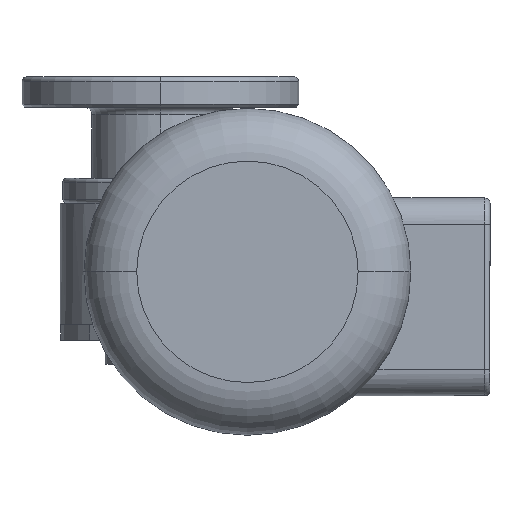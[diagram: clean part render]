
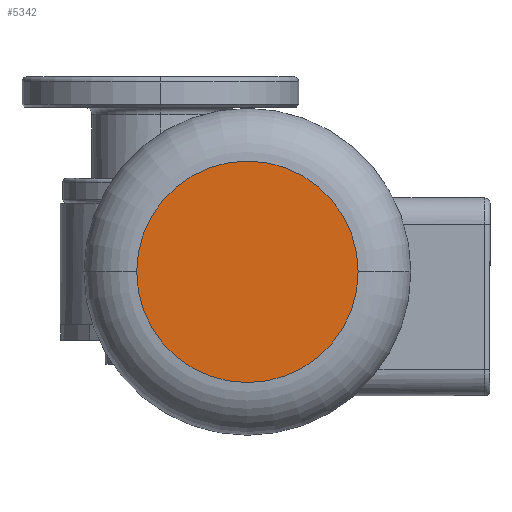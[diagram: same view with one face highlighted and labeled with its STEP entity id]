
A CAD part, left-side view. The second image highlights one B-rep face of the part: STEP entity #5342.
In plain terms, the highlighted planar face has unit normal (-1, 0, 0).
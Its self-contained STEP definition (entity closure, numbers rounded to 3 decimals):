
#155 = ORIENTED_EDGE ( 'NONE', *, *, #7771, .T. ) ;
#1205 = DIRECTION ( 'NONE',  ( 0., -1., 0. ) ) ;
#1594 = DIRECTION ( 'NONE',  ( 0., -1., 0. ) ) ;
#2117 = AXIS2_PLACEMENT_3D ( 'NONE', #6728, #4801, #9804 ) ;
#4801 = DIRECTION ( 'NONE',  ( 1., 0., 0. ) ) ;
#5342 = ADVANCED_FACE ( 'NONE', ( #8428 ), #12596, .F. ) ;
#5391 = DIRECTION ( 'NONE',  ( -1., 0., 0. ) ) ;
#6039 = VERTEX_POINT ( 'NONE', #10841 ) ;
#6328 = CARTESIAN_POINT ( 'NONE',  ( -233., 42., 0. ) ) ;
#6332 = AXIS2_PLACEMENT_3D ( 'NONE', #9879, #12925, #1594 ) ;
#6728 = CARTESIAN_POINT ( 'NONE',  ( -233., 0., 0. ) ) ;
#7045 = EDGE_CURVE ( 'NONE', #7669, #6039, #7388, .T. ) ;
#7388 = CIRCLE ( 'NONE', #11988, 42. ) ;
#7669 = VERTEX_POINT ( 'NONE', #6328 ) ;
#7771 = EDGE_CURVE ( 'NONE', #6039, #7669, #10470, .T. ) ;
#8428 = FACE_OUTER_BOUND ( 'NONE', #9862, .T. ) ;
#8834 = ORIENTED_EDGE ( 'NONE', *, *, #7045, .T. ) ;
#9804 = DIRECTION ( 'NONE',  ( 0., -1., 0. ) ) ;
#9862 = EDGE_LOOP ( 'NONE', ( #155, #8834 ) ) ;
#9879 = CARTESIAN_POINT ( 'NONE',  ( -233., 0., 0. ) ) ;
#10470 = CIRCLE ( 'NONE', #6332, 42. ) ;
#10579 = CARTESIAN_POINT ( 'NONE',  ( -233., 0., 0. ) ) ;
#10841 = CARTESIAN_POINT ( 'NONE',  ( -233., -42., 0. ) ) ;
#11988 = AXIS2_PLACEMENT_3D ( 'NONE', #10579, #5391, #1205 ) ;
#12596 = PLANE ( 'NONE',  #2117 ) ;
#12925 = DIRECTION ( 'NONE',  ( -1., 0., 0. ) ) ;
